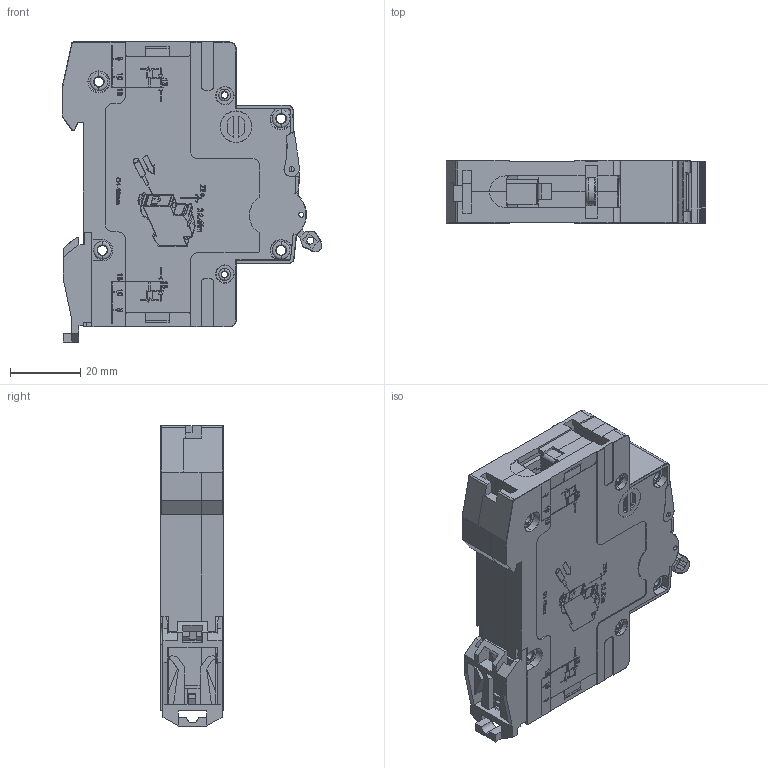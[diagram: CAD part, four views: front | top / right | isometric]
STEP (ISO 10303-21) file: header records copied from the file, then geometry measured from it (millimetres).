
FILE_DESCRIPTION (( 'STEP AP214' ), '1' );
FILE_NAME ('TDZ-1B-40.STEP', '2026-04-30T12:46:59', ( '' ), ( '' ), 'SwSTEP 2.0', 'SolidWorks 2025', '' );
FILE_SCHEMA (( 'AUTOMOTIVE_DESIGN' ));
Length unit declared in the file: millimetre
Products named in the file (1): TDZ-1B-40
Bounding box: 73.85 x 17.8 x 85.3 mm (x, y, z)
Volume: 30480.2 mm3; surface area: 48197.3 mm2
Topology: 21 solids, 21 shells, 4139 faces, 11946 edges, 8063 vertices
Faces by surface type: plane 2533, cylinder 996, bspline 403, torus 161, cone 46
Entity records: 210884 total; most frequent: CARTESIAN_POINT 60916, ORIENTED_EDGE 23868, DIRECTION 19599, EDGE_CURVE 11934, VERTEX_POINT 8063, VECTOR 7959, LINE 7959, AXIS2_PLACEMENT_3D 5820
